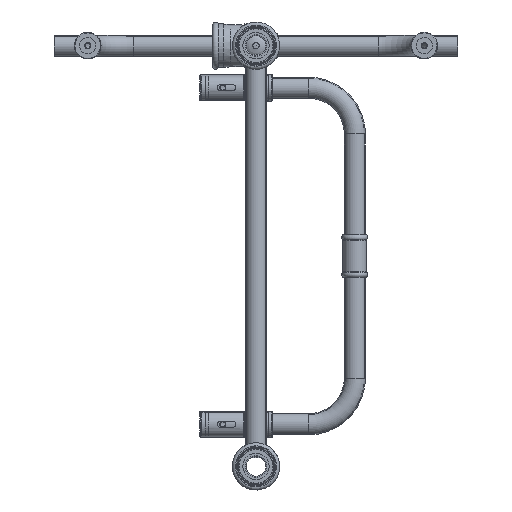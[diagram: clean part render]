
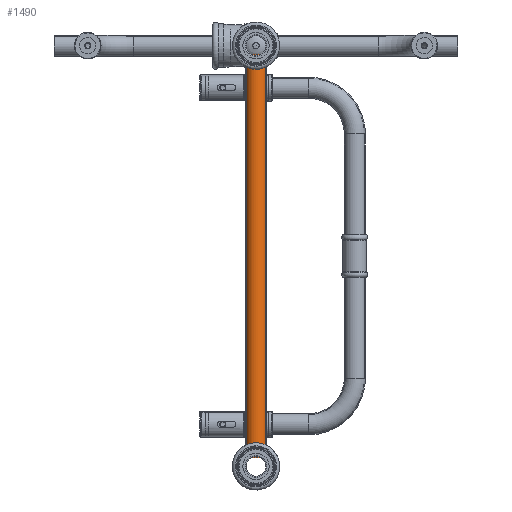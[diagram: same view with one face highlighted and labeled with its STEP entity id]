
A CAD part, front view. The second image highlights one B-rep face of the part: STEP entity #1490.
In plain terms, the highlighted cylindrical face has radius 10 mm (diameter 20 mm), a full revolution.
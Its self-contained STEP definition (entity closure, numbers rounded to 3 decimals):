
#1490 = ADVANCED_FACE( '', ( #3189, #3190 ), #3191, .T. );
#3189 = FACE_OUTER_BOUND( '', #5398, .T. );
#3190 = FACE_OUTER_BOUND( '', #5399, .T. );
#3191 = CYLINDRICAL_SURFACE( '', #5400, 10. );
#5398 = EDGE_LOOP( '', ( #7930 ) );
#5399 = EDGE_LOOP( '', ( #7931 ) );
#5400 = AXIS2_PLACEMENT_3D( '', #7932, #7933, #7934 );
#7930 = ORIENTED_EDGE( '', *, *, #9552, .T. );
#7931 = ORIENTED_EDGE( '', *, *, #9718, .F. );
#7932 = CARTESIAN_POINT( '', ( 192., 0., 0. ) );
#7933 = DIRECTION( '', ( 1., 0., 0. ) );
#7934 = DIRECTION( '', ( 0., 0., 1. ) );
#9552 = EDGE_CURVE( '', #10819, #10819, #10820, .T. );
#9718 = EDGE_CURVE( '', #11066, #11066, #11067, .T. );
#10819 = VERTEX_POINT( '', #22036 );
#10820 = CIRCLE( '', #22037, 10. );
#11066 = VERTEX_POINT( '', #22834 );
#11067 = CIRCLE( '', #22835, 10. );
#22036 = CARTESIAN_POINT( '', ( 192., 10., 0. ) );
#22037 = AXIS2_PLACEMENT_3D( '', #24685, #24686, #24687 );
#22834 = CARTESIAN_POINT( '', ( -192., 10., 0. ) );
#22835 = AXIS2_PLACEMENT_3D( '', #24905, #24906, #24907 );
#24685 = CARTESIAN_POINT( '', ( 192., 0., 0. ) );
#24686 = DIRECTION( '', ( -1., 0., 0. ) );
#24687 = DIRECTION( '', ( 0., 1., 0. ) );
#24905 = CARTESIAN_POINT( '', ( -192., 0., 0. ) );
#24906 = DIRECTION( '', ( -1., 0., 0. ) );
#24907 = DIRECTION( '', ( 0., 1., 0. ) );
